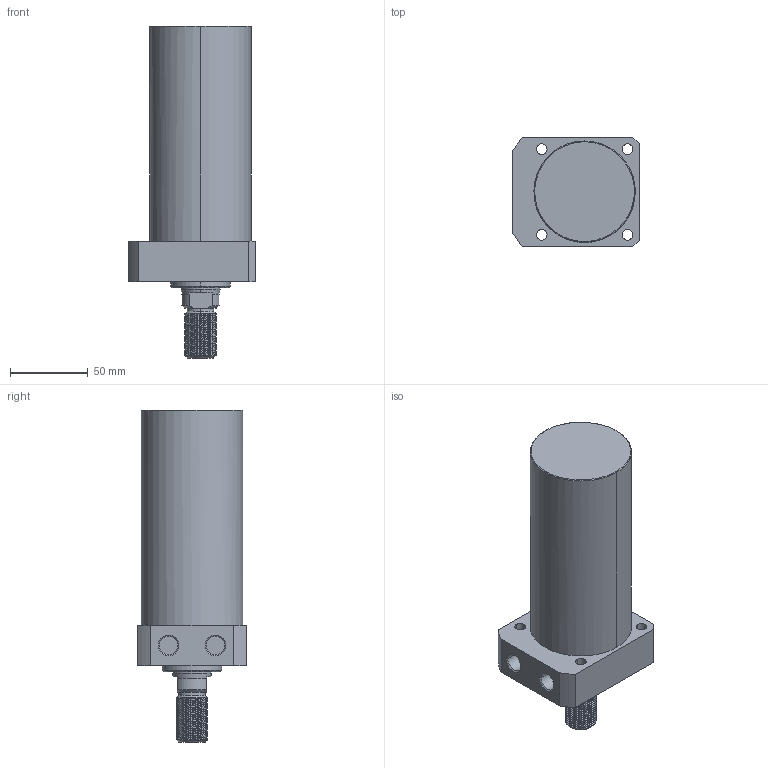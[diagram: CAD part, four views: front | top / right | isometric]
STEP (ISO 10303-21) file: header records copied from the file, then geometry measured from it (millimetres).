
FILE_DESCRIPTION((' '),'2;1');
FILE_NAME( 'TLLR-065CT-105.STEP.stp', '2025-10-24T16:35:00', (' '), ('--- Datakit www.datakit.com---'), ' Datakit CrossCadWare V2024.1 Dec 21 2023', 'Mastercam 2025', ' ');
FILE_SCHEMA(('AUTOMOTIVE_DESIGN { 1 0 10303 214 1 1 1 1 }'));
Length unit declared in the file: millimetre
Products named in the file (1): TLLR-065CT-105
Bounding box: 81 x 70 x 213 mm (x, y, z)
Volume: 614542.6 mm3; surface area: 54568.1 mm2
Topology: 1 solids, 1 shells, 106 faces, 382 edges, 286 vertices
Faces by surface type: cylinder 66, plane 20, cone 16, bspline 2, torus 2
Entity records: 11942 total; most frequent: CARTESIAN_POINT 8684, ORIENTED_EDGE 764, DIRECTION 533, EDGE_CURVE 382, VERTEX_POINT 286, AXIS2_PLACEMENT_3D 215, B_SPLINE_CURVE_WITH_KNOTS 169, EDGE_LOOP 122
